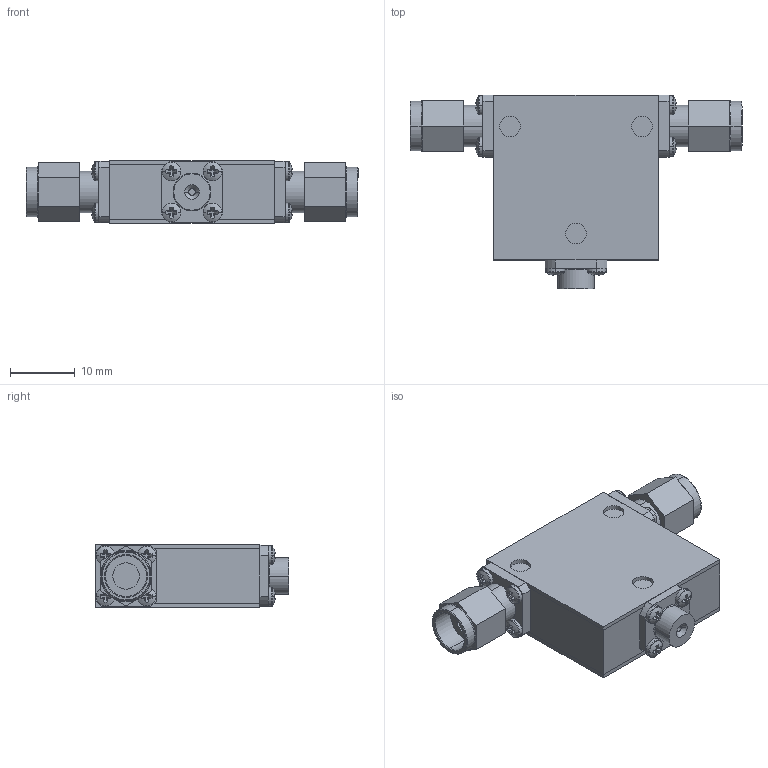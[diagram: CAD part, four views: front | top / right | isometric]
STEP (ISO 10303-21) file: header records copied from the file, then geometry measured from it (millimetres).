
FILE_DESCRIPTION (( 'STEP AP214' ), '1' );
FILE_NAME ('Package 9 Iso MM.step', '2021-12-01T21:02:45', ( '' ), ( '' ), 'SwSTEP 2.0', 'SolidWorks 2016', '' );
FILE_SCHEMA (( 'AUTOMOTIVE_DESIGN' ));
Length unit declared in the file: inch
Products named in the file (6): pan cross head_ai_CR-PHMS 0.06-80x0.125x0.125-N; Package Size 9; Package 9; Delta SMA-Male 0.375 flagne; Package 9 Iso MM; 0.375 flange
Assembly tree (17 placements, depth 2):
  Package 9 Iso MM
    Package Size 9
    Package 9
    pan cross head_ai_CR-PHMS 0.06-80x0.125x0.125-N  x12
    Delta SMA-Male 0.375 flagne  x2
    0.375 flange
Bounding box: 51.16 x 29.84 x 9.65 mm (x, y, z)
Volume: 7337.3 mm3; surface area: 7388.1 mm2
Topology: 17 solids, 17 shells, 430 faces, 980 edges, 604 vertices
Faces by surface type: plane 246, cylinder 118, torus 38, sphere 24, cone 4
Entity records: 4284 total; most frequent: DIRECTION 774, CARTESIAN_POINT 668, ORIENTED_EDGE 632, EDGE_CURVE 316, AXIS2_PLACEMENT_3D 308, VERTEX_POINT 202, EDGE_LOOP 168, CIRCLE 158
